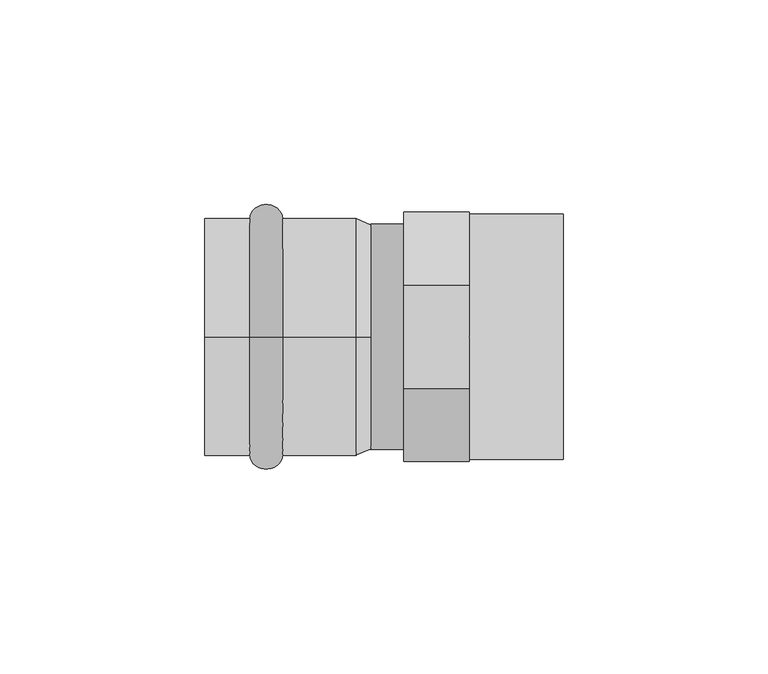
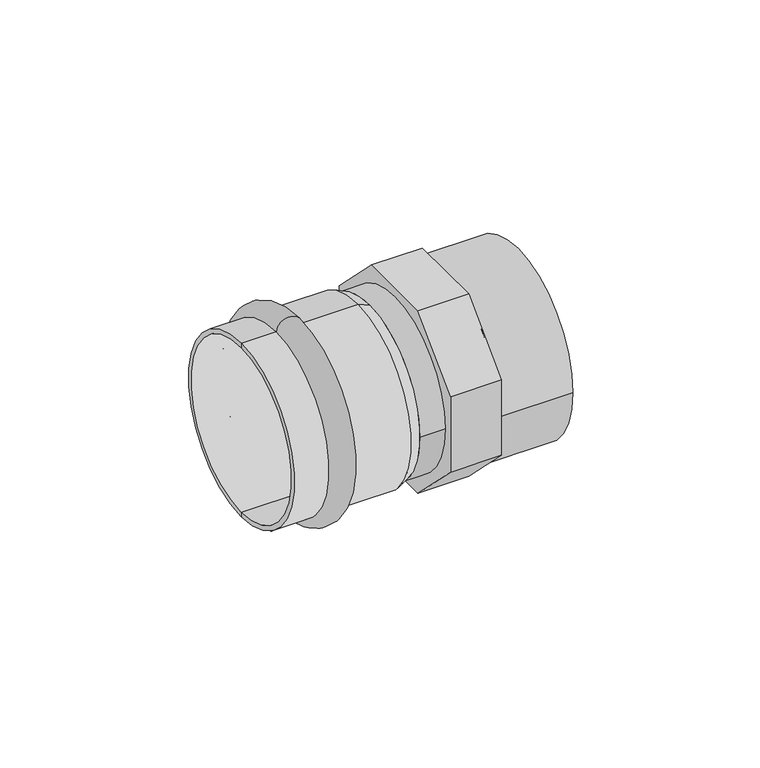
"""IFC4 building model written with IfcOpenShell, lengths in millimetres: pipe fitting geometry."""

import ifcopenshell
import ifcopenshell.guid

model = None  # the IFC model being written
_history = None  # IfcOwnerHistory: only IFC2X3 demands one
_inside = {}  # id of a spatial element -> (the spatial element, [elements in it])
_under = {}  # id of a project, library or spatial element -> (it, [spatial elements below it])
_declared = {}  # id of a project -> (the project, [libraries it declares])
_typed = {}  # id of a type object -> (the type object, [elements of that type])
_made_of = {}  # id of a material, layer set ... -> (it, [elements and type objects made of it])


def new_model(schema):
    """Start an empty IFC model of exactly this schema.

    Asked for "IFC4X3", IfcOpenShell would pick the latest addendum, in which some entities
    have other attributes; the version numbers below select the first issue.
    IFC2X3 requires an IfcOwnerHistory on every rooted entity: one is made here for all.
    """
    global model, _history
    if schema == "IFC4X3":
        model = ifcopenshell.file(schema_version=(4, 3, 0, 0))
    else:
        model = ifcopenshell.file(schema=schema)
    _inside.clear()
    _under.clear()
    _declared.clear()
    _typed.clear()
    _made_of.clear()
    _history = None
    if model.schema == "IFC2X3":
        org = make("IfcOrganization", Name="unknown")
        user = make(
            "IfcPersonAndOrganization",
            ThePerson=make("IfcPerson", FamilyName="unknown"),
            TheOrganization=org,
        )
        app = make(
            "IfcApplication",
            ApplicationDeveloper=org,
            Version="unknown",
            ApplicationFullName="unknown",
            ApplicationIdentifier="unknown",
        )
        _history = make(
            "IfcOwnerHistory",
            OwningUser=user,
            OwningApplication=app,
            ChangeAction="ADDED",
            CreationDate=0,
        )
    return model


def make(cls, **values):
    """One entity of the class cls with the attributes given. An attribute that is None is left unset."""
    return model.create_entity(
        cls, **{name: value for name, value in values.items() if value is not None}
    )


def rooted(cls, **values):
    """An entity with a GlobalId (a new one), such as an element, a storey or a relation."""
    return make(cls, GlobalId=ifcopenshell.guid.new(), OwnerHistory=_history, **values)


def si_unit(unit_type, name, prefix=None):
    """IfcSIUnit, for example si_unit("LENGTHUNIT", "METRE", prefix="MILLI")."""
    return make("IfcSIUnit", UnitType=unit_type, Prefix=prefix, Name=name)


def assignment(units):
    """IfcUnitAssignment: the units of a project."""
    return None if units is None else make("IfcUnitAssignment", Units=units)


def point(xyz):
    """IfcCartesianPoint."""
    return None if xyz is None else make("IfcCartesianPoint", Coordinates=xyz)


def direction(xyz):
    """IfcDirection."""
    return None if xyz is None else make("IfcDirection", DirectionRatios=xyz)


def frame(location, z_axis=None, x_axis=None):
    """IfcAxis2Placement3D, a coordinate frame: its origin and axes. An axis left out is left unset."""
    return make(
        "IfcAxis2Placement3D",
        Location=point(location),
        Axis=direction(z_axis),
        RefDirection=direction(x_axis),
    )


def frame_2d(location, x_axis=None):
    """IfcAxis2Placement2D, a coordinate frame in the plane: its origin and x axis."""
    return make(
        "IfcAxis2Placement2D", Location=point(location), RefDirection=direction(x_axis)
    )


def origin():
    """The frame at (0, 0, 0) with its axes left unset."""
    return frame((0.0, 0.0, 0.0))


def origin_2d():
    """The frame at (0, 0) in the plane with its x axis left unset."""
    return frame_2d((0.0, 0.0))


def place(relative_to, where):
    """IfcLocalPlacement: puts the frame where relative to a parent placement (None: the world)."""
    return make(
        "IfcLocalPlacement", PlacementRelTo=relative_to, RelativePlacement=where
    )


def context(
    kind, dimensions, precision=None, world=None, true_north=None, identifier=None
):
    """IfcGeometricRepresentationContext, for example the 3D "Model" context."""
    return make(
        "IfcGeometricRepresentationContext",
        ContextIdentifier=identifier,
        ContextType=kind,
        CoordinateSpaceDimension=dimensions,
        Precision=precision,
        WorldCoordinateSystem=world,
        TrueNorth=true_north,
    )


def project(units=None, contexts=None):
    """IfcProject with its units and contexts."""
    return rooted(
        "IfcProject",
        Name="project",
        RepresentationContexts=contexts,
        UnitsInContext=assignment(units),
    )


def spatial(cls, under=None, at=None, **own):
    """A site, building, storey or space (cls), placed at a placement, below another one or the project."""
    s = rooted(cls, ObjectPlacement=at, **own)
    if under is not None:
        _under.setdefault(under.id(), (under, []))[1].append(s)
    return s


def polyline(points):
    """IfcPolyline through the points."""
    return make("IfcPolyline", Points=[point(p) for p in points])


def circle_curve(where, radius):
    """IfcCircle in the frame where."""
    return make("IfcCircle", Position=where, Radius=radius)


def ellipse_curve(where, semi_axis1, semi_axis2):
    """IfcEllipse in the frame where."""
    return make(
        "IfcEllipse", Position=where, SemiAxis1=semi_axis1, SemiAxis2=semi_axis2
    )


def trimmed(basis, trim1, trim2, sense, master):
    """IfcTrimmedCurve: the piece of a basis curve between two trims."""
    return make(
        "IfcTrimmedCurve",
        BasisCurve=basis,
        Trim1=trim1,
        Trim2=trim2,
        SenseAgreement=sense,
        MasterRepresentation=master,
    )


def segment(curve, same_sense, transition):
    """IfcCompositeCurveSegment."""
    return make(
        "IfcCompositeCurveSegment",
        Transition=transition,
        SameSense=same_sense,
        ParentCurve=curve,
    )


def composite_curve(segments, self_intersect=None):
    """IfcCompositeCurve: segments joined end to end."""
    return make("IfcCompositeCurve", Segments=segments, SelfIntersect=self_intersect)


def outline(outer, holes=None, kind="AREA"):
    """IfcArbitraryClosedProfileDef: a profile drawn as a closed curve; with holes, ...WithVoids."""
    if holes is None:
        return make("IfcArbitraryClosedProfileDef", ProfileType=kind, OuterCurve=outer)
    return make(
        "IfcArbitraryProfileDefWithVoids",
        ProfileType=kind,
        OuterCurve=outer,
        InnerCurves=holes,
    )


def extrude(swept, where, along, depth):
    """IfcExtrudedAreaSolid: the profile swept, set in the frame where, extruded along a direction by depth."""
    return make(
        "IfcExtrudedAreaSolid",
        SweptArea=swept,
        Position=where,
        ExtrudedDirection=direction(along),
        Depth=depth,
    )


def shape(context_of_items, identifier, shape_type, items):
    """IfcShapeRepresentation: the items that make up one representation, for example the "Body"."""
    return make(
        "IfcShapeRepresentation",
        ContextOfItems=context_of_items,
        RepresentationIdentifier=identifier,
        RepresentationType=shape_type,
        Items=items,
    )


def source(mapping_origin, context_of_items, identifier, shape_type, items):
    """IfcRepresentationMap: a shape defined once, which mapped items show again and again."""
    return make(
        "IfcRepresentationMap",
        MappingOrigin=mapping_origin,
        MappedRepresentation=shape(context_of_items, identifier, shape_type, items),
    )


def transform(
    local_origin,
    x_axis=None,
    y_axis=None,
    z_axis=None,
    scale=None,
    scale2=None,
    scale3=None,
    uniform=True,
):
    """IfcCartesianTransformationOperator3D, or its non-uniform kind. x_axis, y_axis, z_axis: its Axis1, 2, 3."""
    if uniform:
        return make(
            "IfcCartesianTransformationOperator3D",
            Axis1=direction(x_axis),
            Axis2=direction(y_axis),
            LocalOrigin=point(local_origin),
            Scale=scale,
            Axis3=direction(z_axis),
        )
    return make(
        "IfcCartesianTransformationOperator3DnonUniform",
        Axis1=direction(x_axis),
        Axis2=direction(y_axis),
        LocalOrigin=point(local_origin),
        Scale=scale,
        Axis3=direction(z_axis),
        Scale2=scale2,
        Scale3=scale3,
    )


def mapped(mapping_source, mapping_target):
    """IfcMappedItem: shows the shape of a source again, moved by a transform."""
    return make(
        "IfcMappedItem", MappingSource=mapping_source, MappingTarget=mapping_target
    )


def made_of(thing, what):
    """Note that an element or type object is made of a material, layer set ...; save() writes the relation."""
    if what is not None:
        _made_of.setdefault(what.id(), (what, []))[1].append(thing)
    return thing


def element(
    cls,
    number,
    at=None,
    inside=None,
    cuts=None,
    type_object=None,
    material=None,
    context=None,
    identifier="Body",
    shape_type=None,
    held_by="IfcProductDefinitionShape",
    body=None,
    shapes=None,
    **own,
):
    """One element of the class cls, such as IfcWall. Its Tag is "e" and its number.

    at: its placement. inside: the storey or other place that contains it. cuts: it is an
    opening in that element (IfcRelVoidsElement). A single representation is given by context,
    identifier, shape_type and body (its items); several are given by shapes. held_by: the class
    of the entity that holds the representations. save() writes the other relations.
    """
    e = rooted(cls, Tag="e%d" % number, ObjectPlacement=at, **own)
    if body is not None:
        shapes = [shape(context, identifier, shape_type, body)]
    if shapes is not None:
        e.Representation = make(held_by, Representations=shapes)
    if inside is not None:
        _inside.setdefault(inside.id(), (inside, []))[1].append(e)
    if cuts is not None:
        rooted(
            "IfcRelVoidsElement", RelatingBuildingElement=cuts, RelatedOpeningElement=e
        )
    if type_object is not None:
        _typed.setdefault(type_object.id(), (type_object, []))[1].append(e)
    return made_of(e, material)


def aggregate(whole, parts):
    """IfcRelAggregates: a whole, such as a stair, and the parts it consists of."""
    return rooted("IfcRelAggregates", RelatingObject=whole, RelatedObjects=parts)


def save(model, path):
    """Write the relations noted so far, then the file.

    IfcRelAggregates (storeys below a building ...), IfcRelContainedInSpatialStructure (elements
    in a storey), IfcRelDefinesByType, IfcRelAssociatesMaterial and IfcRelDeclares: one each for
    every whole, place, type object, material and project.
    """
    for whole, parts in _under.values():
        aggregate(whole, parts)
    for where, things in _inside.values():
        rooted(
            "IfcRelContainedInSpatialStructure",
            RelatedElements=things,
            RelatingStructure=where,
        )
    for kind, things in _typed.values():
        rooted("IfcRelDefinesByType", RelatedObjects=things, RelatingType=kind)
    for what, things in _made_of.values():
        rooted("IfcRelAssociatesMaterial", RelatedObjects=things, RelatingMaterial=what)
    for by, libraries in _declared.values():
        rooted("IfcRelDeclares", RelatingContext=by, RelatedDefinitions=libraries)
    model.write(path)


def plane_surface(at):
    """IfcPlane: the flat surface through the origin of the frame at, square to its z axis."""
    return make("IfcPlane", Position=at)


def cylinder_surface(at, radius):
    """IfcCylindricalSurface: all points at the distance radius from the z axis of the frame at."""
    return make("IfcCylindricalSurface", Position=at, Radius=radius)


def revolved_surface(curve, axis_point, axis_direction):
    """IfcSurfaceOfRevolution: the curve turned about the line through axis_point along axis_direction."""
    return make(
        "IfcSurfaceOfRevolution",
        SweptCurve=make("IfcArbitraryOpenProfileDef", ProfileType="CURVE", Curve=curve),
        AxisPosition=make("IfcAxis1Placement", Location=point(axis_point), Axis=direction(axis_direction)),
    )


def advanced_brep(points, edges, surfaces, faces):
    """IfcAdvancedBrep: a solid bounded by faces that lie on surfaces and meet in shared edges.

    An edge is (start, end): straight between two places in points (the first is 0);
    or (start, end, curve); or (start, end, curve, False) where it runs against its curve.
    A face is (place in surfaces, loops), or (place, loops, False) where it looks against
    its surface's normal. A loop lists edges by number (the first is 1), with a minus sign
    where the edge is run from its end to its start. The first loop is the outer one.
    """
    corners = [point(p) for p in points]
    vertices = [make("IfcVertexPoint", VertexGeometry=c) for c in corners]
    made = []
    for start, end, *more in edges:
        made.append(
            make(
                "IfcEdgeCurve",
                EdgeStart=vertices[start],
                EdgeEnd=vertices[end],
                EdgeGeometry=more[0] if more else make("IfcPolyline", Points=[corners[start], corners[end]]),
                SameSense=more[1] if len(more) > 1 else True,
            )
        )
    hull = []
    for where, loops, *sense in faces:
        bounds = []
        for j, loop in enumerate(loops):
            ring = [make("IfcOrientedEdge", EdgeElement=made[abs(k) - 1], Orientation=k > 0) for k in loop]
            bounds.append(
                make(
                    "IfcFaceOuterBound" if j == 0 else "IfcFaceBound",
                    Bound=make("IfcEdgeLoop", EdgeList=ring),
                    Orientation=True,
                )
            )
        hull.append(make("IfcAdvancedFace", Bounds=bounds, FaceSurface=surfaces[where], SameSense=sense[0] if sense else True))
    return make("IfcAdvancedBrep", Outer=make("IfcClosedShell", CfsFaces=hull))


def pipe_fitting_ca3b730a(model_context):
    return source(origin(), model_context, "Body", "SolidModel", [
        advanced_brep(
        [(-26.0, 0.0, 29.0), (-26.0, 0.0, -29.0), (-18.0, 0.0, -29.0), (-18.0, 0.0, 29.0)],
        [
            (0, 1, circle_curve(frame((-26.0, 0.0, 0.0), z_axis=(-1.0, 0.0, 0.0), x_axis=(0.0, 0.0, -1.0)), 29.0)),
            (1, 2),
            (2, 3, circle_curve(frame((-18.0, 0.0, 0.0), z_axis=(1.0, 0.0, 0.0), x_axis=(0.0, 0.0, -1.0)), 29.0)),
            (3, 0),
            (1, 0, circle_curve(frame((-26.0, 0.0, 0.0), z_axis=(-1.0, 0.0, 0.0), x_axis=(0.0, 0.0, -1.0)), 29.0)),
            (3, 2, circle_curve(frame((-18.0, 0.0, 0.0), z_axis=(1.0, 0.0, 0.0), x_axis=(0.0, 0.0, -1.0)), 29.0)),
            (2, 1, ellipse_curve(frame((-22.0, 0.0, -29.0), z_axis=(0.0, 1.0, 0.0), x_axis=(-1.0, 0.0, 0.0)), 4.0, 3.5)),
            (0, 3, ellipse_curve(frame((-22.0, 0.0, 29.0), z_axis=(0.0, 1.0, 0.0), x_axis=(-1.0, 0.0, 0.0)), 4.0, 3.5)),
        ],
        [
            revolved_surface(polyline([(-18.0, 0.0, -29.0), (-26.0, 0.0, -29.0)]), (4.0, 0.0, 0.0), (1.0, 0.0, 0.0)),
            revolved_surface(trimmed(ellipse_curve(frame((-22.0, 0.0, -29.0), z_axis=(0.0, -1.0, 0.0), x_axis=(-1.0, 0.0, 0.0)), 4.0, 3.5), [point((-26.0, 0.0, -29.0))], [point((-18.0, 0.0, -29.0))], True, "CARTESIAN"), (4.0, 0.0, 0.0), (1.0, 0.0, 0.0)),
        ],
        [
            (0, [[1, 2, 3, 4]]),
            (0, [[5, -4, 6, -2]]),
            (1, [[-3, 7, -1, 8]]),
            (1, [[-6, -8, -5, -7]]),
        ],
    ),
        advanced_brep(
        [(3.5337785, 0.0, 27.5), (3.5337785, 0.0, -27.5), (0.0, 0.0, -29.0), (0.0, 0.0, 29.0), (-37.0, 0.0, 27.5), (-37.0, 0.0, -27.5), (-37.0, 0.0, 29.0), (-37.0, 0.0, -29.0)],
        [
            (0, 1, circle_curve(frame((3.5337785, 0.0, 0.0), z_axis=(-1.0, 0.0, 0.0), x_axis=(0.0, 0.0, -1.0)), 27.5)),
            (1, 2),
            (2, 3, circle_curve(frame((0.0, 0.0, 0.0), z_axis=(1.0, 0.0, 0.0), x_axis=(0.0, 0.0, -1.0)), 29.0)),
            (3, 0),
            (1, 0, circle_curve(frame((3.5337785, 0.0, 0.0), z_axis=(-1.0, 0.0, 0.0), x_axis=(0.0, 0.0, -1.0)), 27.5)),
            (3, 2, circle_curve(frame((0.0, 0.0, 0.0), z_axis=(1.0, 0.0, 0.0), x_axis=(0.0, 0.0, -1.0)), 29.0)),
            (4, 5, circle_curve(frame((-37.0, 0.0, 0.0), z_axis=(-1.0, 0.0, 0.0), x_axis=(0.0, 0.0, -1.0)), 27.5)),
            (5, 1),
            (0, 4),
            (5, 4, circle_curve(frame((-37.0, 0.0, 0.0), z_axis=(-1.0, 0.0, 0.0), x_axis=(0.0, 0.0, -1.0)), 27.5)),
            (6, 7, circle_curve(frame((-37.0, 0.0, 0.0), z_axis=(-1.0, 0.0, 0.0), x_axis=(0.0, 0.0, -1.0)), 29.0)),
            (7, 5),
            (4, 6),
            (7, 6, circle_curve(frame((-37.0, 0.0, 0.0), z_axis=(-1.0, 0.0, 0.0), x_axis=(0.0, 0.0, -1.0)), 29.0)),
            (2, 7),
            (6, 3),
        ],
        [
            revolved_surface(polyline([(0.0, 0.0, -29.0), (3.5337785, 0.0, -27.5)]), (4.0, 0.0, 0.0), (1.0, 0.0, 0.0)),
            revolved_surface(polyline([(3.5337785, 0.0, -27.5), (-37.0, 0.0, -27.5)]), (4.0, 0.0, 0.0), (1.0, 0.0, 0.0)),
            plane_surface(frame((-37.0, 0.0, 0.0), z_axis=(-1.0, 0.0, 0.0), x_axis=(0.0, 0.0, -1.0))),
            cylinder_surface(frame((4.0, 0.0, 0.0), z_axis=(1.0, 0.0, 0.0), x_axis=(0.0, 0.0, -1.0)), 29.0),
        ],
        [
            (0, [[1, 2, 3, 4]]),
            (0, [[5, -4, 6, -2]]),
            (1, [[7, 8, -1, 9]]),
            (1, [[10, -9, -5, -8]]),
            (2, [[11, 12, -7, 13]]),
            (2, [[14, -13, -10, -12]]),
            (3, [[-3, 15, -11, 16]]),
            (3, [[-6, -16, -14, -15]]),
        ],
    ),
        extrude(outline(composite_curve([segment(trimmed(circle_curve(origin_2d(), 30.0), [point((-30.0, 0.0))], [point((30.0, 0.0))], False, "CARTESIAN"), True, "CONTINUOUS"), segment(trimmed(circle_curve(origin_2d(), 30.0), [point((30.0, 0.0))], [point((-30.0, 0.0))], False, "CARTESIAN"), True, "CONTINUOUS")], self_intersect=False)), frame((27.5337785, 0.0, 0.0), z_axis=(1.0, 0.0, 0.0), x_axis=(0.0, 1.0, 0.0)), (0.0, 0.0, 1.0), 23.0),
        extrude(outline(composite_curve([segment(trimmed(circle_curve(origin_2d(), 27.5), [point((-27.5, 0.0))], [point((27.5, 0.0))], False, "CARTESIAN"), True, "CONTINUOUS"), segment(trimmed(circle_curve(origin_2d(), 27.5), [point((27.5, 0.0))], [point((-27.5, 0.0))], False, "CARTESIAN"), True, "CONTINUOUS")], self_intersect=False)), frame((3.5337785, 0.0, 0.0), z_axis=(1.0, 0.0, 0.0), x_axis=(0.0, 1.0, 0.0)), (0.0, 0.0, 1.0), 8.0),
        extrude(outline(polyline([(-30.5, 12.6335137), (-12.6335137, 30.5), (12.6335137, 30.5), (30.5, 12.6335137), (30.5, -12.6335137), (12.6335137, -30.5), (-12.6335137, -30.5), (-30.5, -12.6335137), (-30.5, 12.6335137)]), holes=[polyline([(9.3198052, -22.5), (22.5, -9.3198052), (22.5, 9.3198052), (9.3198052, 22.5), (-9.3198052, 22.5), (-22.5, 9.3198052), (-22.5, -9.3198052), (-9.3198052, -22.5), (9.3198052, -22.5)])]), frame((11.5337785, 0.0, 0.0), z_axis=(1.0, 0.0, 0.0), x_axis=(0.0, 1.0, 0.0)), (0.0, 0.0, 1.0), 16.0),
    ])


if __name__ == "__main__":
    model = new_model("IFC4")
    model_context = context("Model", 3, world=origin())
    ifc_project = project(units=[si_unit("LENGTHUNIT", "METRE", prefix="MILLI")], contexts=[model_context])
    site = spatial("IfcSite", under=ifc_project)
    building = spatial("IfcBuilding", under=site)
    placement = place(None, origin())
    pipe_fitting_shape = pipe_fitting_ca3b730a(model_context)
    element("IfcPipeFitting", 1, ObjectType="РЕХАУ_Пресс Муфта НР : 54 x R 2\"", at=placement, inside=building, context=model_context, shape_type="MappedRepresentation", body=[
        mapped(pipe_fitting_shape, transform((0.0, 0.0, 0.0), x_axis=(1.0, 0.0, 0.0), y_axis=(0.0, 1.0, 0.0), z_axis=(0.0, 0.0, 1.0))),
    ])
    save(model, "model.ifc")
